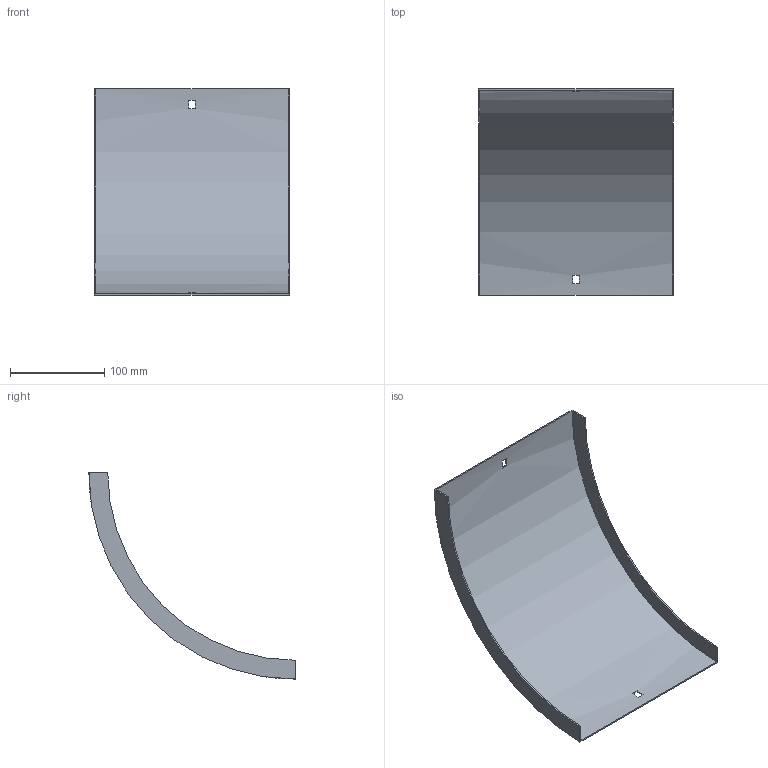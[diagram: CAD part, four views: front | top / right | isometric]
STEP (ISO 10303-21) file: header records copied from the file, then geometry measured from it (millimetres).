
FILE_DESCRIPTION (( 'STEP AP214' ), '1' );
FILE_NAME ('33N1J200.step', '2025-02-21T09:17:29', ( '' ), ( '' ), 'SwSTEP 2.0', 'SolidWorks 2023', '' );
FILE_SCHEMA (( 'AUTOMOTIVE_DESIGN' ));
Length unit declared in the file: millimetre
Products named in the file (1): 33N1J200
Bounding box: 207 x 219 x 219 mm (x, y, z)
Volume: 124426.6 mm3; surface area: 167668.7 mm2
Topology: 1 solids, 1 shells, 18 faces, 48 edges, 32 vertices
Faces by surface type: plane 14, cylinder 4
Entity records: 599 total; most frequent: DIRECTION 102, CARTESIAN_POINT 99, ORIENTED_EDGE 96, EDGE_CURVE 48, AXIS2_PLACEMENT_3D 35, LINE 32, VERTEX_POINT 32, VECTOR 32
